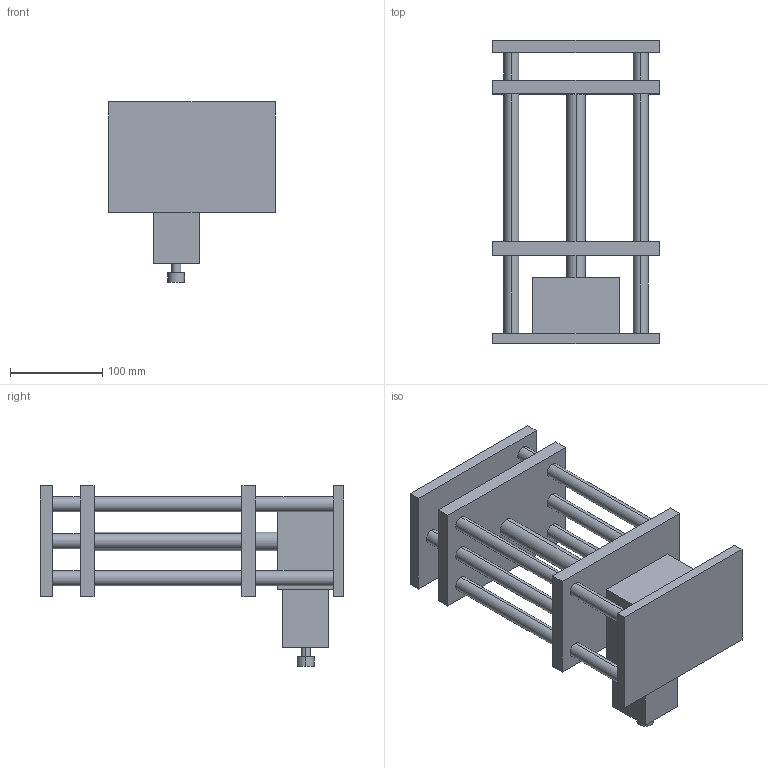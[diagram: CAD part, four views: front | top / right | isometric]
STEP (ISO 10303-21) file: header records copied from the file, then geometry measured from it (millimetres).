
FILE_DESCRIPTION (( 'STEP AP203' ), '1' );
FILE_NAME ('ZS20-100.STEP', '2015-01-08T02:48:20', ( 'lyeiki' ), ( '' ), 'SwSTEP 2.0', 'SolidWorks 2014', '' );
FILE_SCHEMA (( 'CONFIG_CONTROL_DESIGN' ));
Length unit declared in the file: millimetre
Products named in the file (1): ZS20-100
Bounding box: 180 x 328 x 195 mm (x, y, z)
Volume: 2144098 mm3; surface area: 312276.1 mm2
Topology: 1 solids, 1 shells, 70 faces, 174 edges, 116 vertices
Faces by surface type: plane 38, cylinder 32
Entity records: 2223 total; most frequent: DIRECTION 380, CARTESIAN_POINT 361, ORIENTED_EDGE 348, EDGE_CURVE 174, AXIS2_PLACEMENT_3D 135, VERTEX_POINT 116, VECTOR 110, LINE 110
